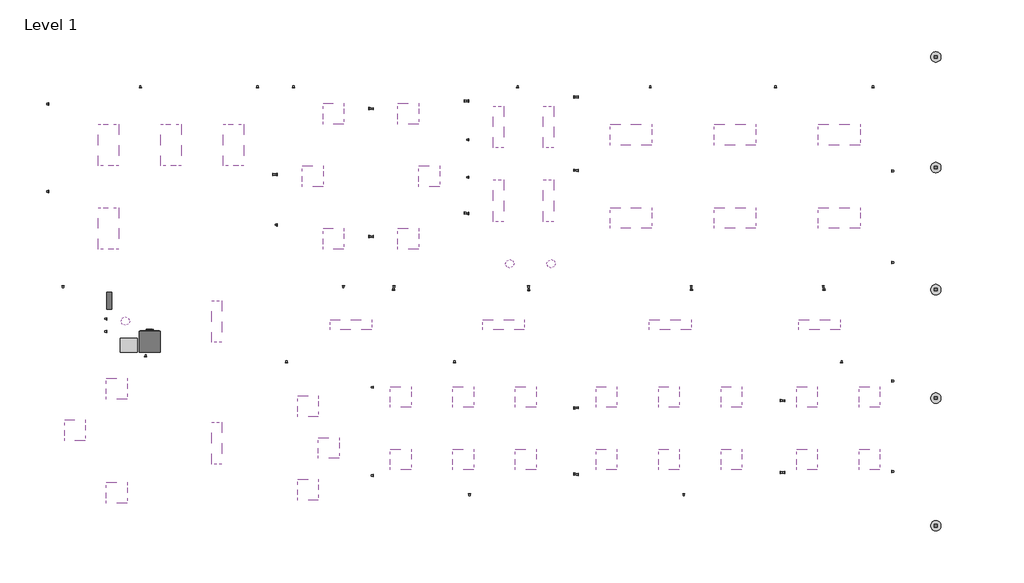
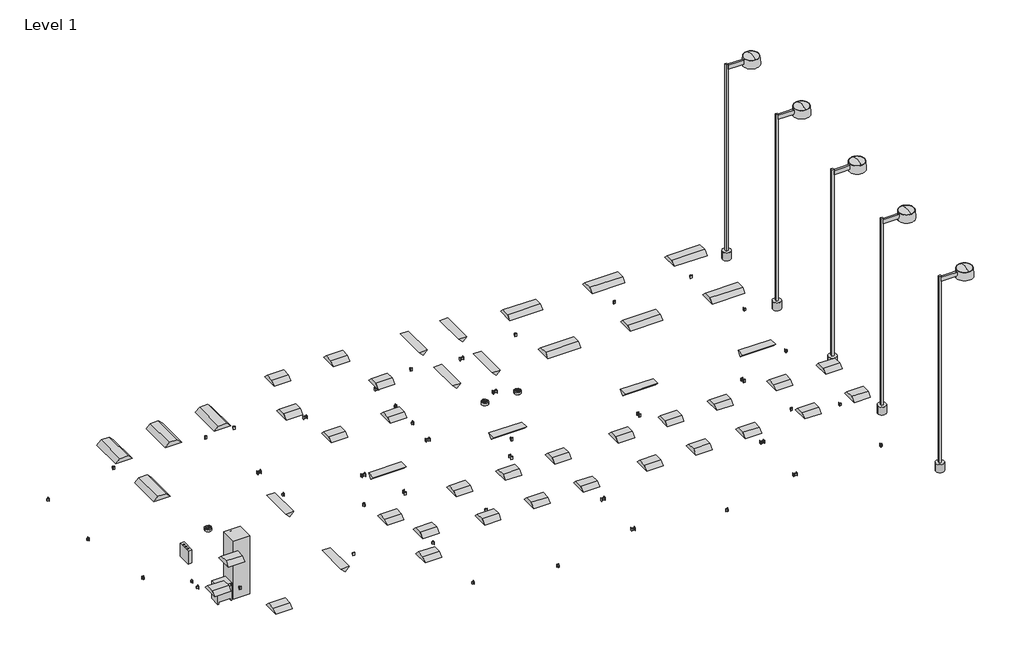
# One storey: 61 proxies, 56 light fixtures, 1 alarm.
"""IFC4 building model written with IfcOpenShell, lengths in millimetres."""

from ifc_helpers import new_model, si_unit, origin, place, context, project, spatial, transform, mapped, element, save
from components import fire_alarm_break_glass_unit_standard_fa99bdc8, proxy_15_kva_b0f935c8, duplex_receptacle_standard_10251bba, lighting_and_appliance_panelboard_208v_100_a_7126e705, proxy_f2fcea41, ceiling_light_flat_round_60w_120v_a3c1fe64, plain_recessed_lighting_fixture_1x4_120_73690371, plain_recessed_lighting_fixture_2x2_120_2107ce2d, plain_recessed_lighting_fixture_2x4_120_d3d5fc87, street_light_standard_400w_halogen_120v_63d2c179

model = new_model("IFC4")

# Units and contexts
model_context = context("Model", 3, world=origin())
ifc_project = project(units=[si_unit("LENGTHUNIT", "METRE", prefix="MILLI")], contexts=[model_context])

# Site, building, storey
site = spatial("IfcSite", under=ifc_project)
building = spatial("IfcBuilding", under=site)
storey = spatial("IfcBuildingStorey", under=building, Name="Level 1", Elevation=0.0)

# Alarm
placement = place(None, origin())
fire_alarm_break_glass_unit_standard_shape = fire_alarm_break_glass_unit_standard_fa99bdc8(model_context)
element("IfcAlarm", 1, ObjectType="Fire Alarm Break Glass Unit : Standard", at=placement, inside=storey, context=model_context, shape_type="MappedRepresentation", body=[
    mapped(fire_alarm_break_glass_unit_standard_shape, transform((1727.2641477, 415.5112982, 1200.0), x_axis=(1.0, 0.0, 0.0), y_axis=(0.0, 0.0, 1.0), z_axis=(0.0, -1.0, 0.0))),
])

# Proxies
proxy_15_kva_shape = proxy_15_kva_b0f935c8(model_context)
element("IfcBuildingElementProxy", 2, Name="Dry Type Transformer - 480-208Y120 - NEMA Type 2 : 15 kVA", ObjectType="Dry Type Transformer - 480-208Y120 - NEMA Type 2 : 15 kVA", at=placement, inside=storey, context=model_context, shape_type="MappedRepresentation", body=[
    mapped(proxy_15_kva_shape, transform((-9977.4200118, -1021.8173203, 0.0), x_axis=(-1.0, 0.0, 0.0), y_axis=(0.0, -1.0, 0.0), z_axis=(0.0, 0.0, 1.0))),
])
duplex_receptacle_standard_shape = duplex_receptacle_standard_10251bba(model_context)
element("IfcBuildingElementProxy", 3, Name="Duplex Receptacle : Standard", ObjectType="Duplex Receptacle : Standard", at=placement, inside=storey, context=model_context, shape_type="MappedRepresentation", body=[
    mapped(duplex_receptacle_standard_shape, transform((-35.6380103, 2648.1174507, 457.2), x_axis=(0.0, 1.0, 0.0), y_axis=(0.0, 0.0, 1.0), z_axis=(1.0, 0.0, 0.0))),
])
element("IfcBuildingElementProxy", 4, Name="Duplex Receptacle : Standard", ObjectType="Duplex Receptacle : Standard", at=placement, inside=storey, context=model_context, shape_type="MappedRepresentation", body=[
    mapped(duplex_receptacle_standard_shape, transform((-35.6380103, 3713.8918475, 457.2), x_axis=(0.0, 1.0, 0.0), y_axis=(0.0, 0.0, 1.0), z_axis=(1.0, 0.0, 0.0))),
])
element("IfcBuildingElementProxy", 5, Name="Duplex Receptacle : Standard", ObjectType="Duplex Receptacle : Standard", at=placement, inside=storey, context=model_context, shape_type="MappedRepresentation", body=[
    mapped(duplex_receptacle_standard_shape, transform((-35.6380103, 4811.7196097, 457.2), x_axis=(0.0, 1.0, 0.0), y_axis=(0.0, 0.0, 1.0), z_axis=(1.0, 0.0, 0.0))),
])
element("IfcBuildingElementProxy", 6, Name="Duplex Receptacle : Standard", ObjectType="Duplex Receptacle : Standard", at=placement, inside=storey, context=model_context, shape_type="MappedRepresentation", body=[
    mapped(duplex_receptacle_standard_shape, transform((-35.6380103, 5949.6140785, 457.2), x_axis=(0.0, 1.0, 0.0), y_axis=(0.0, 0.0, 1.0), z_axis=(1.0, 0.0, 0.0))),
])
element("IfcBuildingElementProxy", 7, Name="Duplex Receptacle : Standard", ObjectType="Duplex Receptacle : Standard", at=placement, inside=storey, context=model_context, shape_type="MappedRepresentation", body=[
    mapped(duplex_receptacle_standard_shape, transform((3054.9541807, 6058.3078836, 457.2), x_axis=(0.0, -1.0, 0.0), y_axis=(0.0, 0.0, 1.0), z_axis=(-1.0, 0.0, 0.0))),
])
element("IfcBuildingElementProxy", 8, Name="Duplex Receptacle : Standard", ObjectType="Duplex Receptacle : Standard", at=placement, inside=storey, context=model_context, shape_type="MappedRepresentation", body=[
    mapped(duplex_receptacle_standard_shape, transform((3054.9541807, 3918.7457486, 457.2), x_axis=(0.0, -1.0, 0.0), y_axis=(0.0, 0.0, 1.0), z_axis=(-1.0, 0.0, 0.0))),
])
element("IfcBuildingElementProxy", 9, Name="Duplex Receptacle : Standard", ObjectType="Duplex Receptacle : Standard", at=placement, inside=storey, context=model_context, shape_type="MappedRepresentation", body=[
    mapped(duplex_receptacle_standard_shape, transform((1404.1361978, 6330.7167452, 457.2), x_axis=(1.0, 0.0, 0.0), y_axis=(0.0, 0.0, 1.0), z_axis=(0.0, -1.0, 0.0))),
])
element("IfcBuildingElementProxy", 10, Name="Duplex Receptacle : Standard", ObjectType="Duplex Receptacle : Standard", at=placement, inside=storey, context=model_context, shape_type="MappedRepresentation", body=[
    mapped(duplex_receptacle_standard_shape, transform((-11896.9375423, 539.3362982, 457.2), x_axis=(-1.0, 0.0, 0.0), y_axis=(0.0, 0.0, 1.0), z_axis=(0.0, 1.0, 0.0))),
])
element("IfcBuildingElementProxy", 11, Name="Duplex Receptacle : Standard", ObjectType="Duplex Receptacle : Standard", at=placement, inside=storey, context=model_context, shape_type="MappedRepresentation", body=[
    mapped(duplex_receptacle_standard_shape, transform((-12326.8965226, 3293.728876, 457.2), x_axis=(0.0, 1.0, 0.0), y_axis=(0.0, 0.0, 1.0), z_axis=(1.0, 0.0, 0.0))),
])
element("IfcBuildingElementProxy", 12, Name="Duplex Receptacle : Standard", ObjectType="Duplex Receptacle : Standard", at=placement, inside=storey, context=model_context, shape_type="MappedRepresentation", body=[
    mapped(duplex_receptacle_standard_shape, transform((-12326.8965226, 5855.4034771, 457.2), x_axis=(0.0, 1.0, 0.0), y_axis=(0.0, 0.0, 1.0), z_axis=(1.0, 0.0, 0.0))),
])
element("IfcBuildingElementProxy", 13, Name="Duplex Receptacle : Standard", ObjectType="Duplex Receptacle : Standard", at=placement, inside=storey, context=model_context, shape_type="MappedRepresentation", body=[
    mapped(duplex_receptacle_standard_shape, transform((-9637.0519321, 6330.7167452, 457.2), x_axis=(1.0, 0.0, 0.0), y_axis=(0.0, 0.0, 1.0), z_axis=(0.0, -1.0, 0.0))),
])
element("IfcBuildingElementProxy", 14, Name="Duplex Receptacle : Standard", ObjectType="Duplex Receptacle : Standard", at=placement, inside=storey, context=model_context, shape_type="MappedRepresentation", body=[
    mapped(duplex_receptacle_standard_shape, transform((-6212.0214597, 6330.7167452, 457.2), x_axis=(1.0, 0.0, 0.0), y_axis=(0.0, 0.0, 1.0), z_axis=(0.0, -1.0, 0.0))),
])
element("IfcBuildingElementProxy", 15, Name="Duplex Receptacle : Standard", ObjectType="Duplex Receptacle : Standard", at=placement, inside=storey, context=model_context, shape_type="MappedRepresentation", body=[
    mapped(duplex_receptacle_standard_shape, transform((-5761.7329716, 3793.1487614, 457.2), x_axis=(0.0, -1.0, 0.0), y_axis=(0.0, 0.0, 1.0), z_axis=(-1.0, 0.0, 0.0))),
])
element("IfcBuildingElementProxy", 16, Name="Duplex Receptacle : Standard", ObjectType="Duplex Receptacle : Standard", at=placement, inside=storey, context=model_context, shape_type="MappedRepresentation", body=[
    mapped(duplex_receptacle_standard_shape, transform((-3696.8781677, 539.3362982, 457.2), x_axis=(-1.0, 0.0, 0.0), y_axis=(0.0, 0.0, 1.0), z_axis=(0.0, 1.0, 0.0))),
])
element("IfcBuildingElementProxy", 17, Name="Duplex Receptacle : Standard", ObjectType="Duplex Receptacle : Standard", at=placement, inside=storey, context=model_context, shape_type="MappedRepresentation", body=[
    mapped(duplex_receptacle_standard_shape, transform((-2943.0314516, 1977.435622, 457.2), x_axis=(0.0, -1.0, 0.0), y_axis=(0.0, 0.0, 1.0), z_axis=(-1.0, 0.0, 0.0))),
])
element("IfcBuildingElementProxy", 18, Name="Duplex Receptacle : Standard", ObjectType="Duplex Receptacle : Standard", at=placement, inside=storey, context=model_context, shape_type="MappedRepresentation", body=[
    mapped(duplex_receptacle_standard_shape, transform((-2943.0314516, 5727.6793643, 457.2), x_axis=(0.0, -1.0, 0.0), y_axis=(0.0, 0.0, 1.0), z_axis=(-1.0, 0.0, 0.0))),
])
element("IfcBuildingElementProxy", 19, Name="Duplex Receptacle : Standard", ObjectType="Duplex Receptacle : Standard", at=placement, inside=storey, context=model_context, shape_type="MappedRepresentation", body=[
    mapped(duplex_receptacle_standard_shape, transform((-5155.3062897, 6330.7167452, 457.2), x_axis=(1.0, 0.0, 0.0), y_axis=(0.0, 0.0, 1.0), z_axis=(0.0, -1.0, 0.0))),
])
element("IfcBuildingElementProxy", 20, Name="Duplex Receptacle : Standard", ObjectType="Duplex Receptacle : Standard", at=placement, inside=storey, context=model_context, shape_type="MappedRepresentation", body=[
    mapped(duplex_receptacle_standard_shape, transform((-5637.9079716, 3796.4641038, 457.2), x_axis=(0.0, 1.0, 0.0), y_axis=(0.0, 0.0, 1.0), z_axis=(1.0, 0.0, 0.0))),
])
element("IfcBuildingElementProxy", 21, Name="Duplex Receptacle : Standard", ObjectType="Duplex Receptacle : Standard", at=placement, inside=storey, context=model_context, shape_type="MappedRepresentation", body=[
    mapped(duplex_receptacle_standard_shape, transform((-5637.9079716, 2322.0092992, 457.2), x_axis=(0.0, 1.0, 0.0), y_axis=(0.0, 0.0, 1.0), z_axis=(1.0, 0.0, 0.0))),
])
element("IfcBuildingElementProxy", 22, Name="Duplex Receptacle : Standard", ObjectType="Duplex Receptacle : Standard", at=placement, inside=storey, context=model_context, shape_type="MappedRepresentation", body=[
    mapped(duplex_receptacle_standard_shape, transform((-2819.2064516, 5717.2271799, 457.2), x_axis=(0.0, 1.0, 0.0), y_axis=(0.0, 0.0, 1.0), z_axis=(1.0, 0.0, 0.0))),
])
element("IfcBuildingElementProxy", 23, Name="Duplex Receptacle : Standard", ObjectType="Duplex Receptacle : Standard", at=placement, inside=storey, context=model_context, shape_type="MappedRepresentation", body=[
    mapped(duplex_receptacle_standard_shape, transform((-2819.2064516, 1974.996779, 457.2), x_axis=(0.0, 1.0, 0.0), y_axis=(0.0, 0.0, 1.0), z_axis=(1.0, 0.0, 0.0))),
])
element("IfcBuildingElementProxy", 24, Name="Duplex Receptacle : Standard", ObjectType="Duplex Receptacle : Standard", at=placement, inside=storey, context=model_context, shape_type="MappedRepresentation", body=[
    mapped(duplex_receptacle_standard_shape, transform((-2217.8940832, 539.3362982, 457.2), x_axis=(-1.0, 0.0, 0.0), y_axis=(0.0, 0.0, 1.0), z_axis=(0.0, 1.0, 0.0))),
])
element("IfcBuildingElementProxy", 25, Name="Duplex Receptacle : Standard", ObjectType="Duplex Receptacle : Standard", at=placement, inside=storey, context=model_context, shape_type="MappedRepresentation", body=[
    mapped(duplex_receptacle_standard_shape, transform((-159.4630103, 5949.6140785, 457.2), x_axis=(0.0, -1.0, 0.0), y_axis=(0.0, 0.0, 1.0), z_axis=(-1.0, 0.0, 0.0))),
])
element("IfcBuildingElementProxy", 26, Name="Duplex Receptacle : Standard", ObjectType="Duplex Receptacle : Standard", at=placement, inside=storey, context=model_context, shape_type="MappedRepresentation", body=[
    mapped(duplex_receptacle_standard_shape, transform((-159.4630103, 2664.1441333, 457.2), x_axis=(0.0, -1.0, 0.0), y_axis=(0.0, 0.0, 1.0), z_axis=(-1.0, 0.0, 0.0))),
])
element("IfcBuildingElementProxy", 27, Name="Duplex Receptacle : Standard", ObjectType="Duplex Receptacle : Standard", at=placement, inside=storey, context=model_context, shape_type="MappedRepresentation", body=[
    mapped(duplex_receptacle_standard_shape, transform((3178.7791807, 3910.7324072, 457.2), x_axis=(0.0, 1.0, 0.0), y_axis=(0.0, 0.0, 1.0), z_axis=(1.0, 0.0, 0.0))),
])
element("IfcBuildingElementProxy", 28, Name="Duplex Receptacle : Standard", ObjectType="Duplex Receptacle : Standard", at=placement, inside=storey, context=model_context, shape_type="MappedRepresentation", body=[
    mapped(duplex_receptacle_standard_shape, transform((3178.7791807, 6058.3078836, 457.2), x_axis=(0.0, 1.0, 0.0), y_axis=(0.0, 0.0, 1.0), z_axis=(1.0, 0.0, 0.0))),
])
element("IfcBuildingElementProxy", 29, Name="Duplex Receptacle : Standard", ObjectType="Duplex Receptacle : Standard", at=placement, inside=storey, context=model_context, shape_type="MappedRepresentation", body=[
    mapped(duplex_receptacle_standard_shape, transform((5282.5934014, 6330.7167452, 457.2), x_axis=(1.0, 0.0, 0.0), y_axis=(0.0, 0.0, 1.0), z_axis=(0.0, -1.0, 0.0))),
])
element("IfcBuildingElementProxy", 30, Name="Duplex Receptacle : Standard", ObjectType="Duplex Receptacle : Standard", at=placement, inside=storey, context=model_context, shape_type="MappedRepresentation", body=[
    mapped(duplex_receptacle_standard_shape, transform((8952.7037304, 6330.7167452, 457.2), x_axis=(1.0, 0.0, 0.0), y_axis=(0.0, 0.0, 1.0), z_axis=(0.0, -1.0, 0.0))),
])
element("IfcBuildingElementProxy", 31, Name="Duplex Receptacle : Standard", ObjectType="Duplex Receptacle : Standard", at=placement, inside=storey, context=model_context, shape_type="MappedRepresentation", body=[
    mapped(duplex_receptacle_standard_shape, transform((11805.4532437, 6330.7167452, 457.2), x_axis=(1.0, 0.0, 0.0), y_axis=(0.0, 0.0, 1.0), z_axis=(0.0, -1.0, 0.0))),
])
element("IfcBuildingElementProxy", 32, Name="Duplex Receptacle : Standard", ObjectType="Duplex Receptacle : Standard", at=placement, inside=storey, context=model_context, shape_type="MappedRepresentation", body=[
    mapped(duplex_receptacle_standard_shape, transform((12355.5534774, 3898.1986981, 457.2), x_axis=(0.0, -1.0, 0.0), y_axis=(0.0, 0.0, 1.0), z_axis=(-1.0, 0.0, 0.0))),
])
element("IfcBuildingElementProxy", 33, Name="Duplex Receptacle : Standard", ObjectType="Duplex Receptacle : Standard", at=placement, inside=storey, context=model_context, shape_type="MappedRepresentation", body=[
    mapped(duplex_receptacle_standard_shape, transform((12355.5534774, 1221.742694, 457.2), x_axis=(0.0, -1.0, 0.0), y_axis=(0.0, 0.0, 1.0), z_axis=(-1.0, 0.0, 0.0))),
])
element("IfcBuildingElementProxy", 34, Name="Duplex Receptacle : Standard", ObjectType="Duplex Receptacle : Standard", at=placement, inside=storey, context=model_context, shape_type="MappedRepresentation", body=[
    mapped(duplex_receptacle_standard_shape, transform((10347.0251217, 539.3362982, 457.2), x_axis=(-1.0, 0.0, 0.0), y_axis=(0.0, 0.0, 1.0), z_axis=(0.0, 1.0, 0.0))),
])
element("IfcBuildingElementProxy", 35, Name="Duplex Receptacle : Standard", ObjectType="Duplex Receptacle : Standard", at=placement, inside=storey, context=model_context, shape_type="MappedRepresentation", body=[
    mapped(duplex_receptacle_standard_shape, transform((6484.5946008, 539.3362982, 457.2), x_axis=(-1.0, 0.0, 0.0), y_axis=(0.0, 0.0, 1.0), z_axis=(0.0, 1.0, 0.0))),
])
element("IfcBuildingElementProxy", 36, Name="Duplex Receptacle : Standard", ObjectType="Duplex Receptacle : Standard", at=placement, inside=storey, context=model_context, shape_type="MappedRepresentation", body=[
    mapped(duplex_receptacle_standard_shape, transform((10364.3439331, 415.5112982, 457.2), x_axis=(1.0, 0.0, 0.0), y_axis=(0.0, 0.0, 1.0), z_axis=(0.0, -1.0, 0.0))),
])
element("IfcBuildingElementProxy", 37, Name="Duplex Receptacle : Standard", ObjectType="Duplex Receptacle : Standard", at=placement, inside=storey, context=model_context, shape_type="MappedRepresentation", body=[
    mapped(duplex_receptacle_standard_shape, transform((6485.6062626, 415.5112982, 457.2), x_axis=(1.0, 0.0, 0.0), y_axis=(0.0, 0.0, 1.0), z_axis=(0.0, -1.0, 0.0))),
])
element("IfcBuildingElementProxy", 38, Name="Duplex Receptacle : Standard", ObjectType="Duplex Receptacle : Standard", at=placement, inside=storey, context=model_context, shape_type="MappedRepresentation", body=[
    mapped(duplex_receptacle_standard_shape, transform((1727.2641477, 415.5112982, 457.2), x_axis=(1.0, 0.0, 0.0), y_axis=(0.0, 0.0, 1.0), z_axis=(0.0, -1.0, 0.0))),
])
element("IfcBuildingElementProxy", 39, Name="Duplex Receptacle : Standard", ObjectType="Duplex Receptacle : Standard", at=placement, inside=storey, context=model_context, shape_type="MappedRepresentation", body=[
    mapped(duplex_receptacle_standard_shape, transform((1724.669851, 539.3362982, 457.2), x_axis=(-1.0, 0.0, 0.0), y_axis=(0.0, 0.0, 1.0), z_axis=(0.0, 1.0, 0.0))),
])
element("IfcBuildingElementProxy", 40, Name="Duplex Receptacle : Standard", ObjectType="Duplex Receptacle : Standard", at=placement, inside=storey, context=model_context, shape_type="MappedRepresentation", body=[
    mapped(duplex_receptacle_standard_shape, transform((-2225.6570301, 415.5112982, 457.2), x_axis=(1.0, 0.0, 0.0), y_axis=(0.0, 0.0, 1.0), z_axis=(0.0, -1.0, 0.0))),
])
element("IfcBuildingElementProxy", 41, Name="Duplex Receptacle : Standard", ObjectType="Duplex Receptacle : Standard", at=placement, inside=storey, context=model_context, shape_type="MappedRepresentation", body=[
    mapped(duplex_receptacle_standard_shape, transform((10884.0330798, -1710.3119449, 457.2), x_axis=(1.0, 0.0, 0.0), y_axis=(0.0, 0.0, 1.0), z_axis=(0.0, -1.0, 0.0))),
])
element("IfcBuildingElementProxy", 42, Name="Duplex Receptacle : Standard", ObjectType="Duplex Receptacle : Standard", at=placement, inside=storey, context=model_context, shape_type="MappedRepresentation", body=[
    mapped(duplex_receptacle_standard_shape, transform((12355.5534774, -2243.543179, 457.2), x_axis=(0.0, -1.0, 0.0), y_axis=(0.0, 0.0, 1.0), z_axis=(-1.0, 0.0, 0.0))),
])
element("IfcBuildingElementProxy", 43, Name="Duplex Receptacle : Standard", ObjectType="Duplex Receptacle : Standard", at=placement, inside=storey, context=model_context, shape_type="MappedRepresentation", body=[
    mapped(duplex_receptacle_standard_shape, transform((12355.5534774, -4891.4298793, 457.2), x_axis=(0.0, -1.0, 0.0), y_axis=(0.0, 0.0, 1.0), z_axis=(-1.0, 0.0, 0.0))),
])
element("IfcBuildingElementProxy", 44, Name="Duplex Receptacle : Standard", ObjectType="Duplex Receptacle : Standard", at=placement, inside=storey, context=model_context, shape_type="MappedRepresentation", body=[
    mapped(duplex_receptacle_standard_shape, transform((9215.7608002, -4927.7853031, 457.2), x_axis=(0.0, 1.0, 0.0), y_axis=(0.0, 0.0, 1.0), z_axis=(1.0, 0.0, 0.0))),
])
element("IfcBuildingElementProxy", 45, Name="Duplex Receptacle : Standard", ObjectType="Duplex Receptacle : Standard", at=placement, inside=storey, context=model_context, shape_type="MappedRepresentation", body=[
    mapped(duplex_receptacle_standard_shape, transform((9215.7608002, -2825.2299599, 457.2), x_axis=(0.0, 1.0, 0.0), y_axis=(0.0, 0.0, 1.0), z_axis=(1.0, 0.0, 0.0))),
])
element("IfcBuildingElementProxy", 46, Name="Duplex Receptacle : Standard", ObjectType="Duplex Receptacle : Standard", at=placement, inside=storey, context=model_context, shape_type="MappedRepresentation", body=[
    mapped(duplex_receptacle_standard_shape, transform((9091.9358002, -2822.2003412, 457.2), x_axis=(0.0, -1.0, 0.0), y_axis=(0.0, 0.0, 1.0), z_axis=(-1.0, 0.0, 0.0))),
])
element("IfcBuildingElementProxy", 47, Name="Duplex Receptacle : Standard", ObjectType="Duplex Receptacle : Standard", at=placement, inside=storey, context=model_context, shape_type="MappedRepresentation", body=[
    mapped(duplex_receptacle_standard_shape, transform((9091.9358002, -4926.5734556, 457.2), x_axis=(0.0, -1.0, 0.0), y_axis=(0.0, 0.0, 1.0), z_axis=(-1.0, 0.0, 0.0))),
])
element("IfcBuildingElementProxy", 48, Name="Duplex Receptacle : Standard", ObjectType="Duplex Receptacle : Standard", at=placement, inside=storey, context=model_context, shape_type="MappedRepresentation", body=[
    mapped(duplex_receptacle_standard_shape, transform((6264.7735239, -5550.1332548, 457.2), x_axis=(-1.0, 0.0, 0.0), y_axis=(0.0, 0.0, 1.0), z_axis=(0.0, 1.0, 0.0))),
])
element("IfcBuildingElementProxy", 49, Name="Duplex Receptacle : Standard", ObjectType="Duplex Receptacle : Standard", at=placement, inside=storey, context=model_context, shape_type="MappedRepresentation", body=[
    mapped(duplex_receptacle_standard_shape, transform((3178.7791807, -4982.3184388, 457.2), x_axis=(0.0, 1.0, 0.0), y_axis=(0.0, 0.0, 1.0), z_axis=(1.0, 0.0, 0.0))),
])
element("IfcBuildingElementProxy", 50, Name="Duplex Receptacle : Standard", ObjectType="Duplex Receptacle : Standard", at=placement, inside=storey, context=model_context, shape_type="MappedRepresentation", body=[
    mapped(duplex_receptacle_standard_shape, transform((3178.7791807, -3031.2440281, 457.2), x_axis=(0.0, 1.0, 0.0), y_axis=(0.0, 0.0, 1.0), z_axis=(1.0, 0.0, 0.0))),
])
element("IfcBuildingElementProxy", 51, Name="Duplex Receptacle : Standard", ObjectType="Duplex Receptacle : Standard", at=placement, inside=storey, context=model_context, shape_type="MappedRepresentation", body=[
    mapped(duplex_receptacle_standard_shape, transform((3054.9541807, -3040.6605751, 457.2), x_axis=(0.0, -1.0, 0.0), y_axis=(0.0, 0.0, 1.0), z_axis=(-1.0, 0.0, 0.0))),
])
element("IfcBuildingElementProxy", 52, Name="Duplex Receptacle : Standard", ObjectType="Duplex Receptacle : Standard", at=placement, inside=storey, context=model_context, shape_type="MappedRepresentation", body=[
    mapped(duplex_receptacle_standard_shape, transform((3054.9541807, -4971.8758356, 457.2), x_axis=(0.0, -1.0, 0.0), y_axis=(0.0, 0.0, 1.0), z_axis=(-1.0, 0.0, 0.0))),
])
element("IfcBuildingElementProxy", 53, Name="Duplex Receptacle : Standard", ObjectType="Duplex Receptacle : Standard", at=placement, inside=storey, context=model_context, shape_type="MappedRepresentation", body=[
    mapped(duplex_receptacle_standard_shape, transform((-2819.2064516, -5011.9425422, 457.2), x_axis=(0.0, 1.0, 0.0), y_axis=(0.0, 0.0, 1.0), z_axis=(1.0, 0.0, 0.0))),
])
element("IfcBuildingElementProxy", 54, Name="Duplex Receptacle : Standard", ObjectType="Duplex Receptacle : Standard", at=placement, inside=storey, context=model_context, shape_type="MappedRepresentation", body=[
    mapped(duplex_receptacle_standard_shape, transform((-2819.2064516, -2431.6466341, 457.2), x_axis=(0.0, 1.0, 0.0), y_axis=(0.0, 0.0, 1.0), z_axis=(1.0, 0.0, 0.0))),
])
element("IfcBuildingElementProxy", 55, Name="Duplex Receptacle : Standard", ObjectType="Duplex Receptacle : Standard", at=placement, inside=storey, context=model_context, shape_type="MappedRepresentation", body=[
    mapped(duplex_receptacle_standard_shape, transform((-443.3364786, -1710.3119449, 457.2), x_axis=(1.0, 0.0, 0.0), y_axis=(0.0, 0.0, 1.0), z_axis=(0.0, -1.0, 0.0))),
])
element("IfcBuildingElementProxy", 56, Name="Duplex Receptacle : Standard", ObjectType="Duplex Receptacle : Standard", at=placement, inside=storey, context=model_context, shape_type="MappedRepresentation", body=[
    mapped(duplex_receptacle_standard_shape, transform((-2.6027055, -5550.1332548, 457.2), x_axis=(-1.0, 0.0, 0.0), y_axis=(0.0, 0.0, 1.0), z_axis=(0.0, 1.0, 0.0))),
])
element("IfcBuildingElementProxy", 57, Name="Duplex Receptacle : Standard", ObjectType="Duplex Receptacle : Standard", at=placement, inside=storey, context=model_context, shape_type="MappedRepresentation", body=[
    mapped(duplex_receptacle_standard_shape, transform((-5361.484653, -1710.3119449, 457.2), x_axis=(1.0, 0.0, 0.0), y_axis=(0.0, 0.0, 1.0), z_axis=(0.0, -1.0, 0.0))),
])
element("IfcBuildingElementProxy", 58, Name="Duplex Receptacle : Standard", ObjectType="Duplex Receptacle : Standard", at=placement, inside=storey, context=model_context, shape_type="MappedRepresentation", body=[
    mapped(duplex_receptacle_standard_shape, transform((-9480.7427635, -1530.7127622, 457.2), x_axis=(1.0, 0.0, 0.0), y_axis=(0.0, 0.0, 1.0), z_axis=(0.0, -1.0, 0.0))),
])
element("IfcBuildingElementProxy", 59, Name="Duplex Receptacle : Standard", ObjectType="Duplex Receptacle : Standard", at=placement, inside=storey, context=model_context, shape_type="MappedRepresentation", body=[
    mapped(duplex_receptacle_standard_shape, transform((-10618.9849987, -802.683715, 457.2), x_axis=(0.0, 1.0, 0.0), y_axis=(0.0, 0.0, 1.0), z_axis=(1.0, 0.0, 0.0))),
])
element("IfcBuildingElementProxy", 60, Name="Duplex Receptacle : Standard", ObjectType="Duplex Receptacle : Standard", at=placement, inside=storey, context=model_context, shape_type="MappedRepresentation", body=[
    mapped(duplex_receptacle_standard_shape, transform((-10618.9849987, -428.1176265, 457.2), x_axis=(0.0, 1.0, 0.0), y_axis=(0.0, 0.0, 1.0), z_axis=(1.0, 0.0, 0.0))),
])
lighting_and_appliance_panelboard_208v_100_a_shape = lighting_and_appliance_panelboard_208v_100_a_7126e705(model_context)
element("IfcBuildingElementProxy", 61, Name="Lighting and Appliance Panelboard - 208V : 100 A", ObjectType="Lighting and Appliance Panelboard - 208V : 100 A", at=placement, inside=storey, context=model_context, shape_type="MappedRepresentation", body=[
    mapped(lighting_and_appliance_panelboard_208v_100_a_shape, transform((-10618.9849987, 99.6800437, 1219.2), x_axis=(0.0, 1.0, 0.0), y_axis=(0.0, 0.0, -1.0), z_axis=(-1.0, 0.0, 0.0))),
])
proxy_shape = proxy_f2fcea41(model_context)
element("IfcBuildingElementProxy", 62, Name="Metering Switchboard : 24\"x26.25\"", ObjectType="Metering Switchboard : 24\"x26.25\"", at=placement, inside=storey, context=model_context, shape_type="MappedRepresentation", body=[
    mapped(proxy_shape, transform((-9356.388949, -1404.6099297, 0.0), x_axis=(-1.0, 0.0, 0.0), y_axis=(0.0, -1.0, 0.0), z_axis=(0.0, 0.0, 1.0))),
])

# Light fixtures
ceiling_light_flat_round_60w_120v_shape = ceiling_light_flat_round_60w_120v_a3c1fe64(model_context)
element("IfcLightFixture", 63, ObjectType="Ceiling Light - Flat Round : 60W - 120V", at=placement, inside=storey, context=model_context, shape_type="MappedRepresentation", body=[
    mapped(ceiling_light_flat_round_60w_120v_shape, transform((2383.8661295, 1183.5273163, 2438.4), x_axis=(1.0, 0.0, 0.0), y_axis=(0.0, -1.0, 0.0), z_axis=(0.0, 0.0, -1.0))),
])
element("IfcLightFixture", 64, ObjectType="Ceiling Light - Flat Round : 60W - 120V", at=placement, inside=storey, context=model_context, shape_type="MappedRepresentation", body=[
    mapped(ceiling_light_flat_round_60w_120v_shape, transform((1173.2843647, 1183.5273163, 2438.4), x_axis=(1.0, 0.0, 0.0), y_axis=(0.0, -1.0, 0.0), z_axis=(0.0, 0.0, -1.0))),
])
element("IfcLightFixture", 65, ObjectType="Ceiling Light - Flat Round : 60W - 120V", at=placement, inside=storey, context=model_context, shape_type="MappedRepresentation", body=[
    mapped(ceiling_light_flat_round_60w_120v_shape, transform((-10072.8185222, -495.688232, 2438.4), x_axis=(1.0, 0.0, 0.0), y_axis=(0.0, -1.0, 0.0), z_axis=(0.0, 0.0, -1.0))),
])
plain_recessed_lighting_fixture_1x4_120_shape = plain_recessed_lighting_fixture_1x4_120_73690371(model_context)
element("IfcLightFixture", 66, ObjectType="Plain Recessed Lighting Fixture : 1x4 - 120", at=placement, inside=storey, context=model_context, shape_type="MappedRepresentation", body=[
    mapped(plain_recessed_lighting_fixture_1x4_120_shape, transform((-4086.8396974, -448.5225822, 2438.4), x_axis=(1.0, 0.0, 0.0), y_axis=(0.0, 1.0, 0.0), z_axis=(0.0, 0.0, 1.0))),
])
element("IfcLightFixture", 67, ObjectType="Plain Recessed Lighting Fixture : 1x4 - 120", at=placement, inside=storey, context=model_context, shape_type="MappedRepresentation", body=[
    mapped(plain_recessed_lighting_fixture_1x4_120_shape, transform((383.5603026, -448.5225822, 2438.4), x_axis=(1.0, 0.0, 0.0), y_axis=(0.0, 1.0, 0.0), z_axis=(0.0, 0.0, 1.0))),
])
element("IfcLightFixture", 68, ObjectType="Plain Recessed Lighting Fixture : 1x4 - 120", at=placement, inside=storey, context=model_context, shape_type="MappedRepresentation", body=[
    mapped(plain_recessed_lighting_fixture_1x4_120_shape, transform((5260.3603026, -448.5225822, 2438.4), x_axis=(1.0, 0.0, 0.0), y_axis=(0.0, 1.0, 0.0), z_axis=(0.0, 0.0, 1.0))),
])
element("IfcLightFixture", 69, ObjectType="Plain Recessed Lighting Fixture : 1x4 - 120", at=placement, inside=storey, context=model_context, shape_type="MappedRepresentation", body=[
    mapped(plain_recessed_lighting_fixture_1x4_120_shape, transform((9629.1603026, -448.5225822, 2438.4), x_axis=(1.0, 0.0, 0.0), y_axis=(0.0, 1.0, 0.0), z_axis=(0.0, 0.0, 1.0))),
])
element("IfcLightFixture", 70, ObjectType="Plain Recessed Lighting Fixture : 1x4 - 120", at=placement, inside=storey, context=model_context, shape_type="MappedRepresentation", body=[
    mapped(plain_recessed_lighting_fixture_1x4_120_shape, transform((-7553.1170415, -1121.3482269, 2438.4), x_axis=(0.0, 1.0, 0.0), y_axis=(-1.0, 0.0, 0.0), z_axis=(0.0, 0.0, 1.0))),
])
element("IfcLightFixture", 71, ObjectType="Plain Recessed Lighting Fixture : 1x4 - 120", at=placement, inside=storey, context=model_context, shape_type="MappedRepresentation", body=[
    mapped(plain_recessed_lighting_fixture_1x4_120_shape, transform((-7553.1170415, -4680.447715, 2438.4), x_axis=(0.0, 1.0, 0.0), y_axis=(-1.0, 0.0, 0.0), z_axis=(0.0, 0.0, 1.0))),
])
element("IfcLightFixture", 72, ObjectType="Plain Recessed Lighting Fixture : 1x4 - 120", at=placement, inside=storey, context=model_context, shape_type="MappedRepresentation", body=[
    mapped(plain_recessed_lighting_fixture_1x4_120_shape, transform((690.4888321, 4574.6175062, 2438.4), x_axis=(0.0, 1.0, 0.0), y_axis=(-1.0, 0.0, 0.0), z_axis=(0.0, 0.0, 1.0))),
])
element("IfcLightFixture", 73, ObjectType="Plain Recessed Lighting Fixture : 1x4 - 120", at=placement, inside=storey, context=model_context, shape_type="MappedRepresentation", body=[
    mapped(plain_recessed_lighting_fixture_1x4_120_shape, transform((2158.6173709, 4574.6175062, 2438.4), x_axis=(0.0, 1.0, 0.0), y_axis=(-1.0, 0.0, 0.0), z_axis=(0.0, 0.0, 1.0))),
])
element("IfcLightFixture", 74, ObjectType="Plain Recessed Lighting Fixture : 1x4 - 120", at=placement, inside=storey, context=model_context, shape_type="MappedRepresentation", body=[
    mapped(plain_recessed_lighting_fixture_1x4_120_shape, transform((2158.6173709, 2416.9134415, 2438.4), x_axis=(0.0, 1.0, 0.0), y_axis=(-1.0, 0.0, 0.0), z_axis=(0.0, 0.0, 1.0))),
])
element("IfcLightFixture", 75, ObjectType="Plain Recessed Lighting Fixture : 1x4 - 120", at=placement, inside=storey, context=model_context, shape_type="MappedRepresentation", body=[
    mapped(plain_recessed_lighting_fixture_1x4_120_shape, transform((690.4888321, 2416.9134415, 2438.4), x_axis=(0.0, 1.0, 0.0), y_axis=(-1.0, 0.0, 0.0), z_axis=(0.0, 0.0, 1.0))),
])
plain_recessed_lighting_fixture_2x2_120_shape = plain_recessed_lighting_fixture_2x2_120_2107ce2d(model_context)
element("IfcLightFixture", 76, ObjectType="Plain Recessed Lighting Fixture : 2x2 - 120", at=placement, inside=storey, context=model_context, shape_type="MappedRepresentation", body=[
    mapped(plain_recessed_lighting_fixture_2x2_120_shape, transform((-2320.5261355, -3020.6225998, 2438.4), x_axis=(1.0, 0.0, 0.0), y_axis=(0.0, -1.0, 0.0), z_axis=(0.0, 0.0, -1.0))),
])
element("IfcLightFixture", 77, ObjectType="Plain Recessed Lighting Fixture : 2x2 - 120", at=placement, inside=storey, context=model_context, shape_type="MappedRepresentation", body=[
    mapped(plain_recessed_lighting_fixture_2x2_120_shape, transform((-2320.5261355, -4849.4225998, 2438.4), x_axis=(1.0, 0.0, 0.0), y_axis=(0.0, -1.0, 0.0), z_axis=(0.0, 0.0, -1.0))),
])
element("IfcLightFixture", 78, ObjectType="Plain Recessed Lighting Fixture : 2x2 - 120", at=placement, inside=storey, context=model_context, shape_type="MappedRepresentation", body=[
    mapped(plain_recessed_lighting_fixture_2x2_120_shape, transform((-491.7261355, -3020.6225998, 2438.4), x_axis=(1.0, 0.0, 0.0), y_axis=(0.0, -1.0, 0.0), z_axis=(0.0, 0.0, -1.0))),
])
element("IfcLightFixture", 79, ObjectType="Plain Recessed Lighting Fixture : 2x2 - 120", at=placement, inside=storey, context=model_context, shape_type="MappedRepresentation", body=[
    mapped(plain_recessed_lighting_fixture_2x2_120_shape, transform((-491.7261355, -4849.4225998, 2438.4), x_axis=(1.0, 0.0, 0.0), y_axis=(0.0, -1.0, 0.0), z_axis=(0.0, 0.0, -1.0))),
])
element("IfcLightFixture", 80, ObjectType="Plain Recessed Lighting Fixture : 2x2 - 120", at=placement, inside=storey, context=model_context, shape_type="MappedRepresentation", body=[
    mapped(plain_recessed_lighting_fixture_2x2_120_shape, transform((1337.0738645, -3020.6225998, 2438.4), x_axis=(1.0, 0.0, 0.0), y_axis=(0.0, -1.0, 0.0), z_axis=(0.0, 0.0, -1.0))),
])
element("IfcLightFixture", 81, ObjectType="Plain Recessed Lighting Fixture : 2x2 - 120", at=placement, inside=storey, context=model_context, shape_type="MappedRepresentation", body=[
    mapped(plain_recessed_lighting_fixture_2x2_120_shape, transform((1337.0738645, -4849.4225998, 2438.4), x_axis=(1.0, 0.0, 0.0), y_axis=(0.0, -1.0, 0.0), z_axis=(0.0, 0.0, -1.0))),
])
element("IfcLightFixture", 82, ObjectType="Plain Recessed Lighting Fixture : 2x2 - 120", at=placement, inside=storey, context=model_context, shape_type="MappedRepresentation", body=[
    mapped(plain_recessed_lighting_fixture_2x2_120_shape, transform((3696.9574904, -3020.6225998, 2438.4), x_axis=(1.0, 0.0, 0.0), y_axis=(0.0, -1.0, 0.0), z_axis=(0.0, 0.0, -1.0))),
])
element("IfcLightFixture", 83, ObjectType="Plain Recessed Lighting Fixture : 2x2 - 120", at=placement, inside=storey, context=model_context, shape_type="MappedRepresentation", body=[
    mapped(plain_recessed_lighting_fixture_2x2_120_shape, transform((3696.9574904, -4849.4225998, 2438.4), x_axis=(1.0, 0.0, 0.0), y_axis=(0.0, -1.0, 0.0), z_axis=(0.0, 0.0, -1.0))),
])
element("IfcLightFixture", 84, ObjectType="Plain Recessed Lighting Fixture : 2x2 - 120", at=placement, inside=storey, context=model_context, shape_type="MappedRepresentation", body=[
    mapped(plain_recessed_lighting_fixture_2x2_120_shape, transform((5525.7574904, -3020.6225998, 2438.4), x_axis=(1.0, 0.0, 0.0), y_axis=(0.0, -1.0, 0.0), z_axis=(0.0, 0.0, -1.0))),
])
element("IfcLightFixture", 85, ObjectType="Plain Recessed Lighting Fixture : 2x2 - 120", at=placement, inside=storey, context=model_context, shape_type="MappedRepresentation", body=[
    mapped(plain_recessed_lighting_fixture_2x2_120_shape, transform((5525.7574904, -4849.4225998, 2438.4), x_axis=(1.0, 0.0, 0.0), y_axis=(0.0, -1.0, 0.0), z_axis=(0.0, 0.0, -1.0))),
])
element("IfcLightFixture", 86, ObjectType="Plain Recessed Lighting Fixture : 2x2 - 120", at=placement, inside=storey, context=model_context, shape_type="MappedRepresentation", body=[
    mapped(plain_recessed_lighting_fixture_2x2_120_shape, transform((7354.5574904, -3020.6225998, 2438.4), x_axis=(1.0, 0.0, 0.0), y_axis=(0.0, -1.0, 0.0), z_axis=(0.0, 0.0, -1.0))),
])
element("IfcLightFixture", 87, ObjectType="Plain Recessed Lighting Fixture : 2x2 - 120", at=placement, inside=storey, context=model_context, shape_type="MappedRepresentation", body=[
    mapped(plain_recessed_lighting_fixture_2x2_120_shape, transform((7354.5574904, -4849.4225998, 2438.4), x_axis=(1.0, 0.0, 0.0), y_axis=(0.0, -1.0, 0.0), z_axis=(0.0, 0.0, -1.0))),
])
element("IfcLightFixture", 88, ObjectType="Plain Recessed Lighting Fixture : 2x2 - 120", at=placement, inside=storey, context=model_context, shape_type="MappedRepresentation", body=[
    mapped(plain_recessed_lighting_fixture_2x2_120_shape, transform((9566.4571388, -3020.6225998, 2438.4), x_axis=(1.0, 0.0, 0.0), y_axis=(0.0, -1.0, 0.0), z_axis=(0.0, 0.0, -1.0))),
])
element("IfcLightFixture", 89, ObjectType="Plain Recessed Lighting Fixture : 2x2 - 120", at=placement, inside=storey, context=model_context, shape_type="MappedRepresentation", body=[
    mapped(plain_recessed_lighting_fixture_2x2_120_shape, transform((11395.2571388, -3020.6225998, 2438.4), x_axis=(1.0, 0.0, 0.0), y_axis=(0.0, -1.0, 0.0), z_axis=(0.0, 0.0, -1.0))),
])
element("IfcLightFixture", 90, ObjectType="Plain Recessed Lighting Fixture : 2x2 - 120", at=placement, inside=storey, context=model_context, shape_type="MappedRepresentation", body=[
    mapped(plain_recessed_lighting_fixture_2x2_120_shape, transform((9566.4571388, -4849.4225998, 2438.4), x_axis=(1.0, 0.0, 0.0), y_axis=(0.0, -1.0, 0.0), z_axis=(0.0, 0.0, -1.0))),
])
element("IfcLightFixture", 91, ObjectType="Plain Recessed Lighting Fixture : 2x2 - 120", at=placement, inside=storey, context=model_context, shape_type="MappedRepresentation", body=[
    mapped(plain_recessed_lighting_fixture_2x2_120_shape, transform((11395.2571388, -4849.4225998, 2438.4), x_axis=(1.0, 0.0, 0.0), y_axis=(0.0, -1.0, 0.0), z_axis=(0.0, 0.0, -1.0))),
])
element("IfcLightFixture", 92, ObjectType="Plain Recessed Lighting Fixture : 2x2 - 120", at=placement, inside=storey, context=model_context, shape_type="MappedRepresentation", body=[
    mapped(plain_recessed_lighting_fixture_2x2_120_shape, transform((-4290.4697116, 5263.8265217, 2438.4), x_axis=(1.0, 0.0, 0.0), y_axis=(0.0, -1.0, 0.0), z_axis=(0.0, 0.0, -1.0))),
])
element("IfcLightFixture", 93, ObjectType="Plain Recessed Lighting Fixture : 2x2 - 120", at=placement, inside=storey, context=model_context, shape_type="MappedRepresentation", body=[
    mapped(plain_recessed_lighting_fixture_2x2_120_shape, transform((-4900.0697116, 3435.0265217, 2438.4), x_axis=(1.0, 0.0, 0.0), y_axis=(0.0, -1.0, 0.0), z_axis=(0.0, 0.0, -1.0))),
])
element("IfcLightFixture", 94, ObjectType="Plain Recessed Lighting Fixture : 2x2 - 120", at=placement, inside=storey, context=model_context, shape_type="MappedRepresentation", body=[
    mapped(plain_recessed_lighting_fixture_2x2_120_shape, transform((-4290.4697116, 1606.2265217, 2438.4), x_axis=(1.0, 0.0, 0.0), y_axis=(0.0, -1.0, 0.0), z_axis=(0.0, 0.0, -1.0))),
])
element("IfcLightFixture", 95, ObjectType="Plain Recessed Lighting Fixture : 2x2 - 120", at=placement, inside=storey, context=model_context, shape_type="MappedRepresentation", body=[
    mapped(plain_recessed_lighting_fixture_2x2_120_shape, transform((-2098.9347309, 5263.8265217, 2438.4), x_axis=(1.0, 0.0, 0.0), y_axis=(0.0, -1.0, 0.0), z_axis=(0.0, 0.0, -1.0))),
])
element("IfcLightFixture", 96, ObjectType="Plain Recessed Lighting Fixture : 2x2 - 120", at=placement, inside=storey, context=model_context, shape_type="MappedRepresentation", body=[
    mapped(plain_recessed_lighting_fixture_2x2_120_shape, transform((-1489.3347309, 3435.0265217, 2438.4), x_axis=(1.0, 0.0, 0.0), y_axis=(0.0, -1.0, 0.0), z_axis=(0.0, 0.0, -1.0))),
])
element("IfcLightFixture", 97, ObjectType="Plain Recessed Lighting Fixture : 2x2 - 120", at=placement, inside=storey, context=model_context, shape_type="MappedRepresentation", body=[
    mapped(plain_recessed_lighting_fixture_2x2_120_shape, transform((-2098.9347309, 1606.2265217, 2438.4), x_axis=(1.0, 0.0, 0.0), y_axis=(0.0, -1.0, 0.0), z_axis=(0.0, 0.0, -1.0))),
])
element("IfcLightFixture", 98, ObjectType="Plain Recessed Lighting Fixture : 2x2 - 120", at=placement, inside=storey, context=model_context, shape_type="MappedRepresentation", body=[
    mapped(plain_recessed_lighting_fixture_2x2_120_shape, transform((-10634.0662487, -2778.4230085, 2438.4), x_axis=(1.0, 0.0, 0.0), y_axis=(0.0, -1.0, 0.0), z_axis=(0.0, 0.0, -1.0))),
])
element("IfcLightFixture", 99, ObjectType="Plain Recessed Lighting Fixture : 2x2 - 120", at=placement, inside=storey, context=model_context, shape_type="MappedRepresentation", body=[
    mapped(plain_recessed_lighting_fixture_2x2_120_shape, transform((-11853.2662487, -3997.6230085, 2438.4), x_axis=(1.0, 0.0, 0.0), y_axis=(0.0, -1.0, 0.0), z_axis=(0.0, 0.0, -1.0))),
])
element("IfcLightFixture", 100, ObjectType="Plain Recessed Lighting Fixture : 2x2 - 120", at=placement, inside=storey, context=model_context, shape_type="MappedRepresentation", body=[
    mapped(plain_recessed_lighting_fixture_2x2_120_shape, transform((-10634.0662487, -5826.4230085, 2438.4), x_axis=(1.0, 0.0, 0.0), y_axis=(0.0, -1.0, 0.0), z_axis=(0.0, 0.0, -1.0))),
])
element("IfcLightFixture", 101, ObjectType="Plain Recessed Lighting Fixture : 2x2 - 120", at=placement, inside=storey, context=model_context, shape_type="MappedRepresentation", body=[
    mapped(plain_recessed_lighting_fixture_2x2_120_shape, transform((-5034.7690987, -3296.1440733, 2438.4), x_axis=(1.0, 0.0, 0.0), y_axis=(0.0, -1.0, 0.0), z_axis=(0.0, 0.0, -1.0))),
])
element("IfcLightFixture", 102, ObjectType="Plain Recessed Lighting Fixture : 2x2 - 120", at=placement, inside=storey, context=model_context, shape_type="MappedRepresentation", body=[
    mapped(plain_recessed_lighting_fixture_2x2_120_shape, transform((-4425.1690987, -4515.3440733, 2438.4), x_axis=(1.0, 0.0, 0.0), y_axis=(0.0, -1.0, 0.0), z_axis=(0.0, 0.0, -1.0))),
])
element("IfcLightFixture", 103, ObjectType="Plain Recessed Lighting Fixture : 2x2 - 120", at=placement, inside=storey, context=model_context, shape_type="MappedRepresentation", body=[
    mapped(plain_recessed_lighting_fixture_2x2_120_shape, transform((-5034.7690987, -5734.5440733, 2438.4), x_axis=(1.0, 0.0, 0.0), y_axis=(0.0, -1.0, 0.0), z_axis=(0.0, 0.0, -1.0))),
])
plain_recessed_lighting_fixture_2x4_120_shape = plain_recessed_lighting_fixture_2x4_120_d3d5fc87(model_context)
element("IfcLightFixture", 104, ObjectType="Plain Recessed Lighting Fixture : 2x4 - 120", at=placement, inside=storey, context=model_context, shape_type="MappedRepresentation", body=[
    mapped(plain_recessed_lighting_fixture_2x4_120_shape, transform((4109.566329, 4654.2265217, 2438.4), x_axis=(1.0, 0.0, 0.0), y_axis=(0.0, -1.0, 0.0), z_axis=(0.0, 0.0, -1.0))),
])
element("IfcLightFixture", 105, ObjectType="Plain Recessed Lighting Fixture : 2x4 - 120", at=placement, inside=storey, context=model_context, shape_type="MappedRepresentation", body=[
    mapped(plain_recessed_lighting_fixture_2x4_120_shape, transform((7157.566329, 4654.2265217, 2438.4), x_axis=(1.0, 0.0, 0.0), y_axis=(0.0, -1.0, 0.0), z_axis=(0.0, 0.0, -1.0))),
])
element("IfcLightFixture", 106, ObjectType="Plain Recessed Lighting Fixture : 2x4 - 120", at=placement, inside=storey, context=model_context, shape_type="MappedRepresentation", body=[
    mapped(plain_recessed_lighting_fixture_2x4_120_shape, transform((10205.566329, 4654.2265217, 2438.4), x_axis=(1.0, 0.0, 0.0), y_axis=(0.0, -1.0, 0.0), z_axis=(0.0, 0.0, -1.0))),
])
element("IfcLightFixture", 107, ObjectType="Plain Recessed Lighting Fixture : 2x4 - 120", at=placement, inside=storey, context=model_context, shape_type="MappedRepresentation", body=[
    mapped(plain_recessed_lighting_fixture_2x4_120_shape, transform((4109.566329, 2215.8265217, 2438.4), x_axis=(1.0, 0.0, 0.0), y_axis=(0.0, -1.0, 0.0), z_axis=(0.0, 0.0, -1.0))),
])
element("IfcLightFixture", 108, ObjectType="Plain Recessed Lighting Fixture : 2x4 - 120", at=placement, inside=storey, context=model_context, shape_type="MappedRepresentation", body=[
    mapped(plain_recessed_lighting_fixture_2x4_120_shape, transform((7157.566329, 2215.8265217, 2438.4), x_axis=(1.0, 0.0, 0.0), y_axis=(0.0, -1.0, 0.0), z_axis=(0.0, 0.0, -1.0))),
])
element("IfcLightFixture", 109, ObjectType="Plain Recessed Lighting Fixture : 2x4 - 120", at=placement, inside=storey, context=model_context, shape_type="MappedRepresentation", body=[
    mapped(plain_recessed_lighting_fixture_2x4_120_shape, transform((10205.566329, 2215.8265217, 2438.4), x_axis=(1.0, 0.0, 0.0), y_axis=(0.0, -1.0, 0.0), z_axis=(0.0, 0.0, -1.0))),
])
element("IfcLightFixture", 110, ObjectType="Plain Recessed Lighting Fixture : 2x4 - 120", at=placement, inside=storey, context=model_context, shape_type="MappedRepresentation", body=[
    mapped(plain_recessed_lighting_fixture_2x4_120_shape, transform((-7215.5147471, 5263.8265217, 2438.4), x_axis=(0.0, -1.0, 0.0), y_axis=(-1.0, 0.0, 0.0), z_axis=(0.0, 0.0, -1.0))),
])
element("IfcLightFixture", 111, ObjectType="Plain Recessed Lighting Fixture : 2x4 - 120", at=placement, inside=storey, context=model_context, shape_type="MappedRepresentation", body=[
    mapped(plain_recessed_lighting_fixture_2x4_120_shape, transform((-9044.3147471, 5263.8265217, 2438.4), x_axis=(0.0, -1.0, 0.0), y_axis=(-1.0, 0.0, 0.0), z_axis=(0.0, 0.0, -1.0))),
])
element("IfcLightFixture", 112, ObjectType="Plain Recessed Lighting Fixture : 2x4 - 120", at=placement, inside=storey, context=model_context, shape_type="MappedRepresentation", body=[
    mapped(plain_recessed_lighting_fixture_2x4_120_shape, transform((-10873.1147471, 5263.8265217, 2438.4), x_axis=(0.0, -1.0, 0.0), y_axis=(-1.0, 0.0, 0.0), z_axis=(0.0, 0.0, -1.0))),
])
element("IfcLightFixture", 113, ObjectType="Plain Recessed Lighting Fixture : 2x4 - 120", at=placement, inside=storey, context=model_context, shape_type="MappedRepresentation", body=[
    mapped(plain_recessed_lighting_fixture_2x4_120_shape, transform((-10873.1147471, 2825.4265217, 2438.4), x_axis=(0.0, -1.0, 0.0), y_axis=(-1.0, 0.0, 0.0), z_axis=(0.0, 0.0, -1.0))),
])
street_light_standard_400w_halogen_120v_shape = street_light_standard_400w_halogen_120v_63d2c179(model_context)
element("IfcLightFixture", 114, ObjectType="Street Light - Standard : 400W Halogen - 120V", at=placement, inside=storey, context=model_context, shape_type="MappedRepresentation", body=[
    mapped(street_light_standard_400w_halogen_120v_shape, transform((13638.4206878, -6482.4996817, 0.0), x_axis=(-1.0, 0.0, 0.0), y_axis=(0.0, -1.0, 0.0), z_axis=(0.0, 0.0, 1.0))),
])
element("IfcLightFixture", 115, ObjectType="Street Light - Standard : 400W Halogen - 120V", at=placement, inside=storey, context=model_context, shape_type="MappedRepresentation", body=[
    mapped(street_light_standard_400w_halogen_120v_shape, transform((13638.4206878, -2748.4447591, 0.0), x_axis=(-1.0, 0.0, 0.0), y_axis=(0.0, -1.0, 0.0), z_axis=(0.0, 0.0, 1.0))),
])
element("IfcLightFixture", 116, ObjectType="Street Light - Standard : 400W Halogen - 120V", at=placement, inside=storey, context=model_context, shape_type="MappedRepresentation", body=[
    mapped(street_light_standard_400w_halogen_120v_shape, transform((13638.4206878, 425.8506431, 0.0), x_axis=(-1.0, 0.0, 0.0), y_axis=(0.0, -1.0, 0.0), z_axis=(0.0, 0.0, 1.0))),
])
element("IfcLightFixture", 117, ObjectType="Street Light - Standard : 400W Halogen - 120V", at=placement, inside=storey, context=model_context, shape_type="MappedRepresentation", body=[
    mapped(street_light_standard_400w_halogen_120v_shape, transform((13638.4206878, 3998.1498485, 0.0), x_axis=(-1.0, 0.0, 0.0), y_axis=(0.0, -1.0, 0.0), z_axis=(0.0, 0.0, 1.0))),
])
element("IfcLightFixture", 118, ObjectType="Street Light - Standard : 400W Halogen - 120V", at=placement, inside=storey, context=model_context, shape_type="MappedRepresentation", body=[
    mapped(street_light_standard_400w_halogen_120v_shape, transform((13638.4206878, 7233.6809624, 0.0), x_axis=(-1.0, 0.0, 0.0), y_axis=(0.0, -1.0, 0.0), z_axis=(0.0, 0.0, 1.0))),
])

save(model, "model.ifc")
